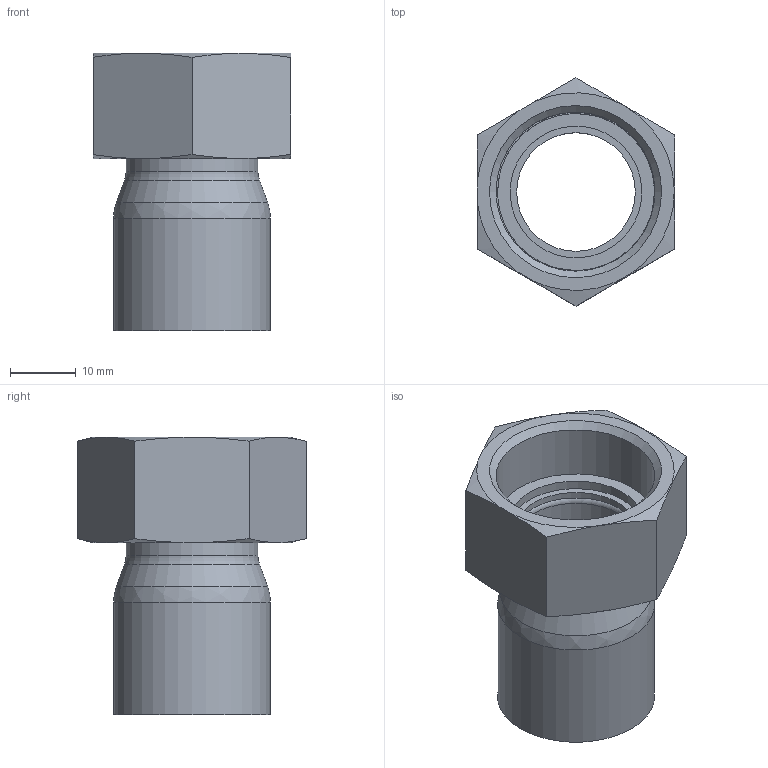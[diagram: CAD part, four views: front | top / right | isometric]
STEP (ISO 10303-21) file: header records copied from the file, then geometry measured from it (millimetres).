
FILE_DESCRIPTION(/* description */ (''),/* implementation_level */ '2;1');
FILE_NAME(/* name */ 'G:\Technik\Management\Bouwmaten + markeringen\z-maattekeningen 3D\5000_gem\5359G_gem\153592234_gem.stp',/* time_stamp */ '2022-03-07T15:00:33+01:00',/* author */ ('vdvijverd'),/* organization */ (''),/* preprocessor_version */ 'ST-DEVELOPER v18.1',/* originating_system */ 'Autodesk Inventor 2021',/* authorisation */ '');
FILE_SCHEMA (('AUTOMOTIVE_DESIGN { 1 0 10303 214 3 1 1 }'));
Length unit declared in the file: millimetre
Products named in the file (4): KS5359G2234; 5359G2234; centel_34; BB1A006_34
Assembly tree (3 placements, depth 2):
  KS5359G2234
    5359G2234
    centel_34
    BB1A006_34
Bounding box: 30 x 34.64 x 42.13 mm (x, y, z)
Volume: 7896.8 mm3; surface area: 8804 mm2
Topology: 3 solids, 3 shells, 42 faces, 111 edges, 78 vertices
Faces by surface type: plane 15, cone 11, cylinder 9, torus 5, bspline 2
Full cylindrical faces by diameter (mm): 18 x2, 20 x2, 20.8 x1, 22 x1, 23.8 x2, 24.117 x1
Entity records: 1557 total; most frequent: CARTESIAN_POINT 326, DIRECTION 254, ORIENTED_EDGE 222, AXIS2_PLACEMENT_3D 114, EDGE_CURVE 111, VERTEX_POINT 78, CIRCLE 67, EDGE_LOOP 51
